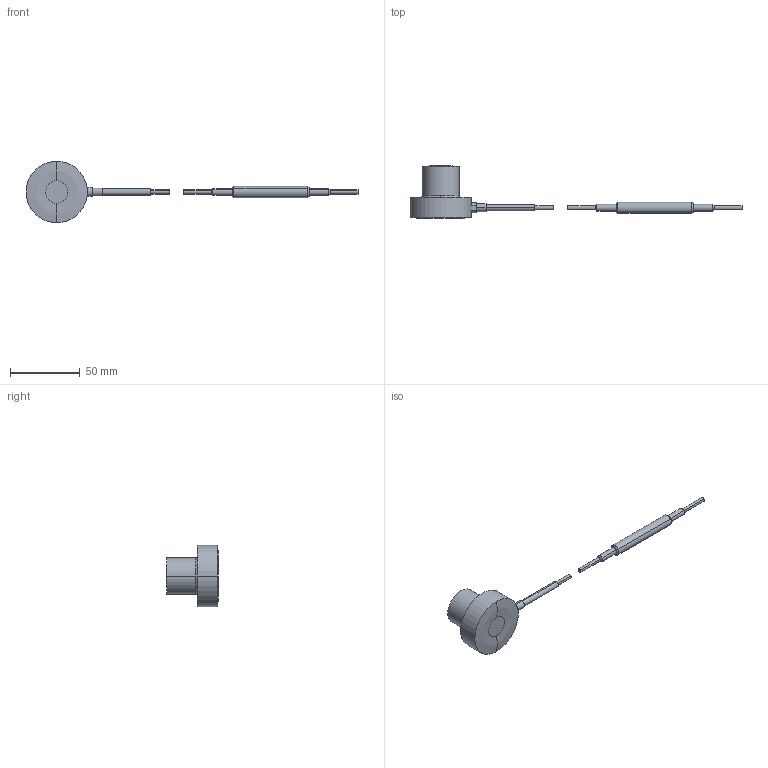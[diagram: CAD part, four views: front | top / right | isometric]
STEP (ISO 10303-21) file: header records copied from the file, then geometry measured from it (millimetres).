
FILE_DESCRIPTION(('STEP AP203'),'1');
FILE_NAME('C:/TPO v2/SharedFS/Outgoing/burster_8402-6100_cagtik8pqvqzheveo50bevpi3.stp','2013-08-27T15:25:28',('TraceParts'),('TraceParts S.A.'),'XStep 1.0',' ',' ');
FILE_SCHEMA(('CONFIG_CONTROL_DESIGN'));
Length unit declared in the file: millimetre
Products named in the file (2): 1; 2
Bounding box: 238 x 37.7 x 44 mm (x, y, z)
Volume: 39345.2 mm3; surface area: 10035.3 mm2
Topology: 2 solids, 2 shells, 54 faces, 117 edges, 74 vertices
Faces by surface type: cylinder 26, plane 15, cone 8, bspline 2, torus 2, sphere 1
Entity records: 1656 total; most frequent: CARTESIAN_POINT 338, DIRECTION 291, ORIENTED_EDGE 234, AXIS2_PLACEMENT_3D 124, EDGE_CURVE 117, VERTEX_POINT 74, CIRCLE 70, EDGE_LOOP 61
